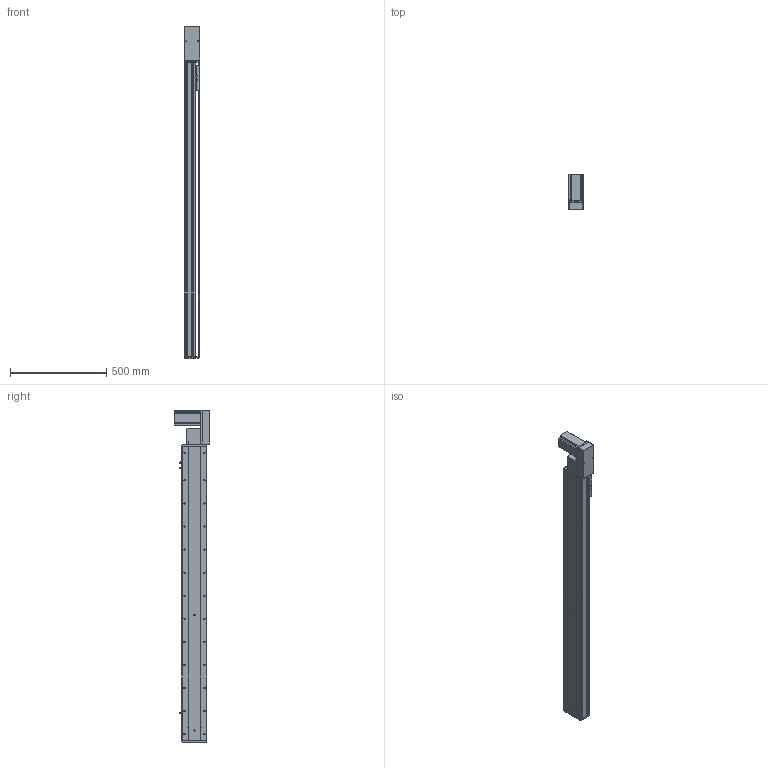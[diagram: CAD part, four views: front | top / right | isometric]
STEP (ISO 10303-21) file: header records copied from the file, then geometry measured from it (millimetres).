
FILE_DESCRIPTION (( 'STEP AP214' ), '1' );
FILE_NAME ('KSD130B-S1300-MLB-CM .STEP', '2019-09-19T07:45:33', ( '微软用户' ), ( '微软中国' ), 'SwSTEP 2.0', 'SolidWorks 2014', '' );
FILE_SCHEMA (( 'AUTOMOTIVE_DESIGN' ));
Length unit declared in the file: millimetre
Products named in the file (12): 覜茼え100遵圉猾敕; U倰嫖萇EEㄜSX672; 130宽盖板半封闭同步带-1300行程; 130宽马达安装板同步带左-改; 130宽马达安装板同步带半封闭; 130宽同步带安装座半封闭; 130宽端盖同步带半封闭; 130宽底板半封闭同步带-1300行程; KSD130B-S1300-MLB-CM ; 台达ECMA－C20807AS伺服电机; 130宽模组保护罩上下左右折-同步带; 130宽模组马达安装板连板左右折同步带
Assembly tree (13 placements, depth 2):
  KSD130B-S1300-MLB-CM 
    130宽底板半封闭同步带-1300行程
    130宽端盖同步带半封闭
    130宽同步带安装座半封闭
    130宽马达安装板同步带半封闭
    130宽马达安装板同步带左-改
    130宽盖板半封闭同步带-1300行程
    U倰嫖萇EEㄜSX672  x3
    覜茼え100遵圉猾敕
    130宽模组马达安装板连板左右折同步带
    130宽模组保护罩上下左右折-同步带
    台达ECMA－C20807AS伺服电机
Bounding box: 82.5 x 184.8 x 1727 mm (x, y, z)
Volume: 5798109.2 mm3; surface area: 1610022.7 mm2
Topology: 14 solids, 14 shells, 1607 faces, 4621 edges, 2941 vertices
Faces by surface type: cylinder 778, plane 634, cone 195
Entity records: 53599 total; most frequent: CARTESIAN_POINT 10110, DIRECTION 8123, ORIENTED_EDGE 7838, EDGE_CURVE 3919, AXIS2_PLACEMENT_3D 2974, VERTEX_POINT 2565, LINE 2175, VECTOR 2175
